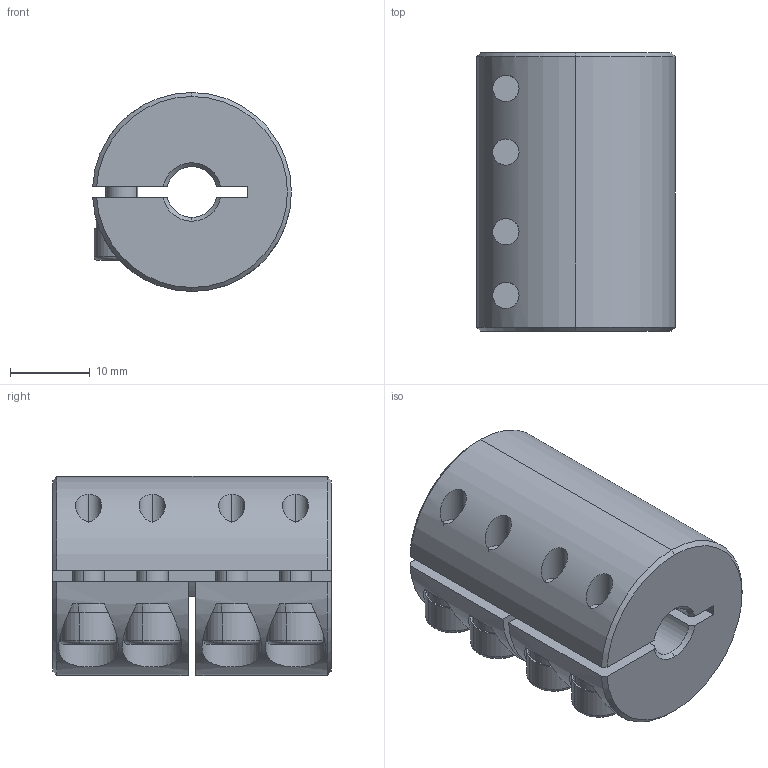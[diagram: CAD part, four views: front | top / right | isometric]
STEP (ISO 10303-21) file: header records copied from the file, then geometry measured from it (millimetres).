
FILE_DESCRIPTION (( 'STEP AP203' ), '1' );
FILE_NAME ('LL-B-D25L35-6.35-10.STEP', '2021-11-05T06:56:24', ( '' ), ( '' ), 'SwSTEP 2.0', 'SolidWorks 2018', '' );
FILE_SCHEMA (( 'CONFIG_CONTROL_DESIGN' ));
Length unit declared in the file: millimetre
Products named in the file (1): LL-B-D25L35-6.35-10
Bounding box: 24.98 x 35 x 25 mm (x, y, z)
Volume: 14140.2 mm3; surface area: 6902 mm2
Topology: 1 solids, 1 shells, 192 faces, 493 edges, 307 vertices
Faces by surface type: plane 92, cylinder 72, cone 20, torus 8
Entity records: 6313 total; most frequent: CARTESIAN_POINT 1497, DIRECTION 1042, ORIENTED_EDGE 970, EDGE_CURVE 485, AXIS2_PLACEMENT_3D 404, VERTEX_POINT 307, LINE 234, VECTOR 234
